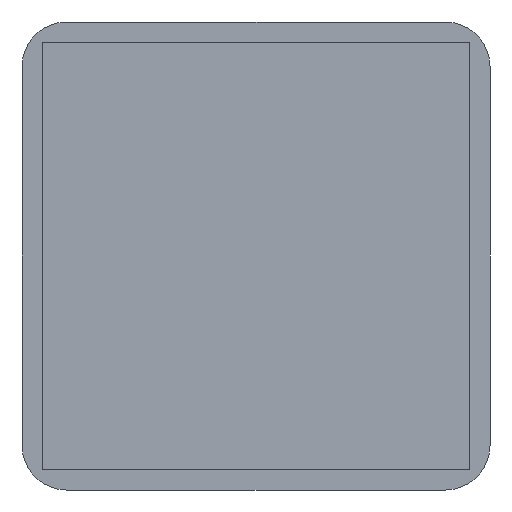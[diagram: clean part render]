
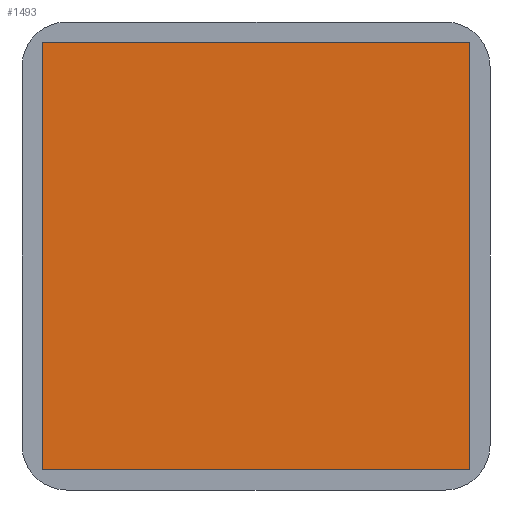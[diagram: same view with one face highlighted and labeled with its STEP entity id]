
A CAD part, front view. The second image highlights one B-rep face of the part: STEP entity #1493.
In plain terms, the highlighted planar face has unit normal (0, -1, 0).
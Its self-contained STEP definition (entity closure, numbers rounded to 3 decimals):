
#162 = CARTESIAN_POINT ( 'NONE',  ( 8.5, -0.1, -8.5 ) ) ;
#376 = FACE_OUTER_BOUND ( 'NONE', #2647, .T. ) ;
#379 = VECTOR ( 'NONE', #1420, 1000. ) ;
#488 = VECTOR ( 'NONE', #1186, 1000. ) ;
#600 = CARTESIAN_POINT ( 'NONE',  ( -8.5, -0.1, -8.5 ) ) ;
#602 = LINE ( 'NONE', #162, #379 ) ;
#622 = CARTESIAN_POINT ( 'NONE',  ( -8.5, -0.1, 8.5 ) ) ;
#672 = EDGE_CURVE ( 'NONE', #1987, #1075, #1736, .T. ) ;
#759 = ORIENTED_EDGE ( 'NONE', *, *, #1636, .F. ) ;
#887 = LINE ( 'NONE', #1695, #1597 ) ;
#1017 = AXIS2_PLACEMENT_3D ( 'NONE', #622, #1622, #2251 ) ;
#1070 = DIRECTION ( 'NONE',  ( -1., 0., 0. ) ) ;
#1075 = VERTEX_POINT ( 'NONE', #1077 ) ;
#1077 = CARTESIAN_POINT ( 'NONE',  ( 8.5, -0.1, 8.5 ) ) ;
#1186 = DIRECTION ( 'NONE',  ( 1., 0., 0. ) ) ;
#1330 = ORIENTED_EDGE ( 'NONE', *, *, #1910, .F. ) ;
#1418 = EDGE_CURVE ( 'NONE', #1075, #1837, #602, .T. ) ;
#1420 = DIRECTION ( 'NONE',  ( 0., 0., -1. ) ) ;
#1493 = ADVANCED_FACE ( 'NONE', ( #376 ), #2469, .F. ) ;
#1530 = ORIENTED_EDGE ( 'NONE', *, *, #1418, .F. ) ;
#1542 = VERTEX_POINT ( 'NONE', #1593 ) ;
#1545 = CARTESIAN_POINT ( 'NONE',  ( -8.5, -0.1, 8.5 ) ) ;
#1593 = CARTESIAN_POINT ( 'NONE',  ( -8.5, -0.1, -8.5 ) ) ;
#1597 = VECTOR ( 'NONE', #1070, 1000. ) ;
#1622 = DIRECTION ( 'NONE',  ( 0., 1., 0. ) ) ;
#1636 = EDGE_CURVE ( 'NONE', #1542, #1987, #2447, .T. ) ;
#1659 = ORIENTED_EDGE ( 'NONE', *, *, #672, .F. ) ;
#1695 = CARTESIAN_POINT ( 'NONE',  ( -8.5, -0.1, -8.5 ) ) ;
#1736 = LINE ( 'NONE', #1545, #488 ) ;
#1837 = VERTEX_POINT ( 'NONE', #1949 ) ;
#1910 = EDGE_CURVE ( 'NONE', #1837, #1542, #887, .T. ) ;
#1932 = CARTESIAN_POINT ( 'NONE',  ( -8.5, -0.1, 8.5 ) ) ;
#1949 = CARTESIAN_POINT ( 'NONE',  ( 8.5, -0.1, -8.5 ) ) ;
#1987 = VERTEX_POINT ( 'NONE', #1932 ) ;
#2251 = DIRECTION ( 'NONE',  ( 0., 0., 1. ) ) ;
#2324 = VECTOR ( 'NONE', #2471, 1000. ) ;
#2447 = LINE ( 'NONE', #600, #2324 ) ;
#2469 = PLANE ( 'NONE',  #1017 ) ;
#2471 = DIRECTION ( 'NONE',  ( 0., 0., 1. ) ) ;
#2647 = EDGE_LOOP ( 'NONE', ( #759, #1330, #1530, #1659 ) ) ;
